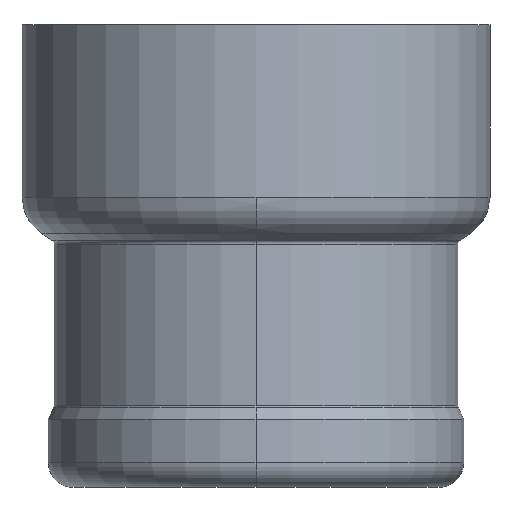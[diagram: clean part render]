
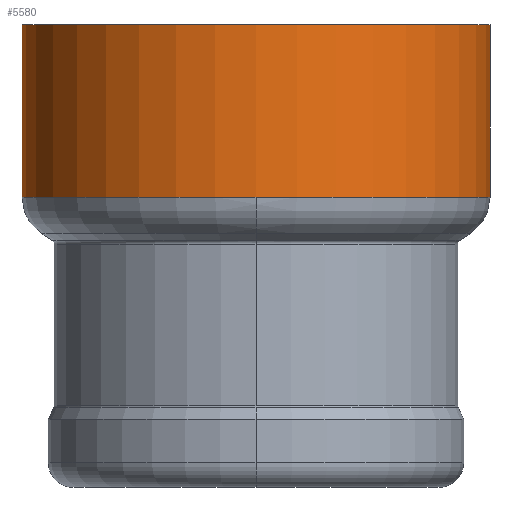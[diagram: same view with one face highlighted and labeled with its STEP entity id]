
A CAD part, left-side view. The second image highlights one B-rep face of the part: STEP entity #5580.
In plain terms, the highlighted cylindrical face has radius 18.95 mm (diameter 37.9 mm), a partial arc.
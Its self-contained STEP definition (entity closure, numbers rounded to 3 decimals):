
#690=CARTESIAN_POINT('',(105.109,39.288,
0.));
#700=DIRECTION('',(-1.,0.,0.));
#710=DIRECTION('',(0.,0.,-1.));
#720=AXIS2_PLACEMENT_3D('',#690,#700,#710);
#730=CIRCLE('',#720,18.95);
#740=CARTESIAN_POINT('',(105.109,58.238,0.
));
#750=VERTEX_POINT('',#740);
#780=CARTESIAN_POINT('',(105.109,39.288,18.95));
#790=VERTEX_POINT('',#780);
#800=EDGE_CURVE('',#790,#750,#730,.T.);
#1630=CARTESIAN_POINT('',(119.076,39.288,0.));
#1640=DIRECTION('',(-1.,0.,0.));
#1650=DIRECTION('',(0.,-1.,0.));
#1660=AXIS2_PLACEMENT_3D('',#1630,#1640,#1650);
#1670=CIRCLE('',#1660,18.95);
#1680=CARTESIAN_POINT('',(119.076,20.338,0.));
#1690=VERTEX_POINT('',#1680);
#1700=CARTESIAN_POINT('',(119.076,58.238,0.));
#1710=VERTEX_POINT('',#1700);
#1720=EDGE_CURVE('',#1690,#1710,#1670,.T.);
#2160=CARTESIAN_POINT('',(111.971,58.238,0.));
#2170=DIRECTION('',(-1.,0.,0.));
#2180=VECTOR('',#2170,1.);
#2190=LINE('',#2160,#2180);
#2200=EDGE_CURVE('',#1710,#750,#2190,.T.);
#2230=CARTESIAN_POINT('',(105.109,20.338,
0.));
#2240=VERTEX_POINT('',#2230);
#2270=CARTESIAN_POINT('',(111.971,20.338,0.));
#2280=DIRECTION('',(-1.,0.,0.));
#2290=VECTOR('',#2280,1.);
#2300=LINE('',#2270,#2290);
#2310=EDGE_CURVE('',#1690,#2240,#2300,.T.);
#5450=CARTESIAN_POINT('',(111.971,39.288,0.));
#5460=DIRECTION('',(-1.,0.,0.));
#5470=DIRECTION('',(0.,-1.,0.));
#5480=AXIS2_PLACEMENT_3D('',#5450,#5460,#5470);
#5490=CYLINDRICAL_SURFACE('',#5480,18.95);
#5500=EDGE_CURVE('',#2240,#790,#730,.T.);
#5510=ORIENTED_EDGE('',*,*,#5500,.F.);
#5520=ORIENTED_EDGE('',*,*,#800,.F.);
#5530=ORIENTED_EDGE('',*,*,#2200,.T.);
#5540=ORIENTED_EDGE('',*,*,#1720,.T.);
#5550=ORIENTED_EDGE('',*,*,#2310,.F.);
#5560=EDGE_LOOP('',(#5550,#5540,#5530,#5520,#5510));
#5570=FACE_OUTER_BOUND('',#5560,.T.);
#5580=ADVANCED_FACE('',(#5570),#5490,.T.);
